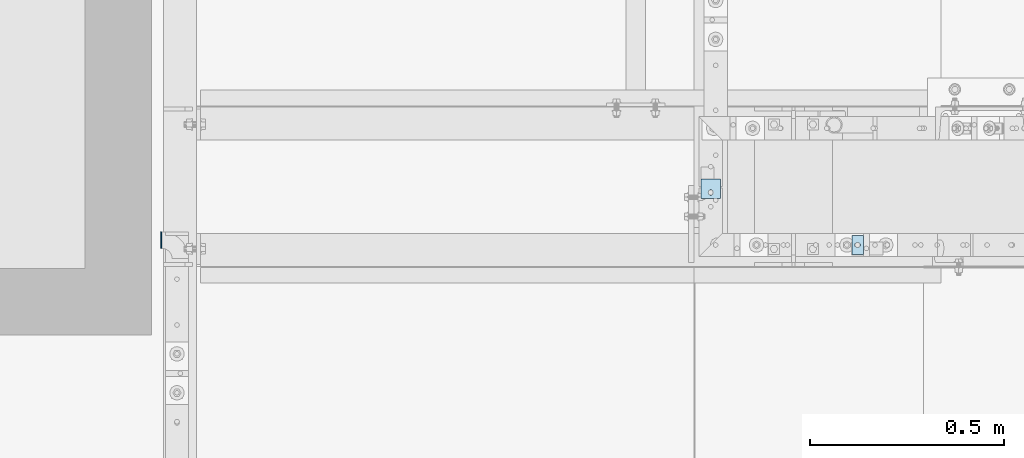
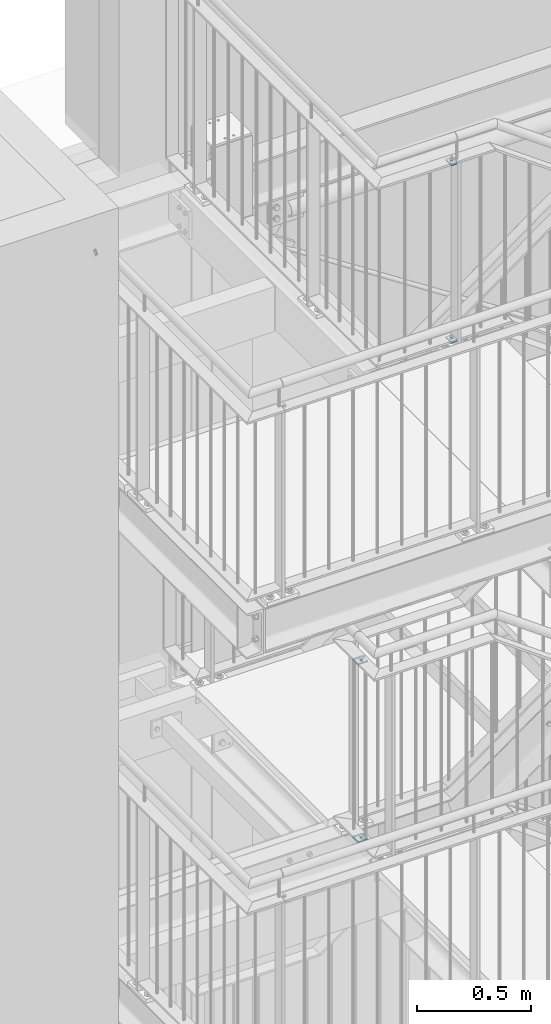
# One storey, part 222 of 821: 5 plates, 8 openings.
"""IFC2X3 building model written with IfcOpenShell, lengths in millimetres."""

from ifc_helpers import new_model, entity, si_unit, converted_unit, point, frame, frame_2d, origin, origin_with_axes, place, context, project, spatial, polyline, circle_curve, line_curve, trimmed, segment, composite_curve, outline, extrude, material, layer, layer_set, element, save


model = new_model("IFC2X3")

# Units and contexts
model_context = context("Model", 3, precision=1e-09, world=origin_with_axes())
ifc_project = project(units=[si_unit("LENGTHUNIT", "METRE", prefix="MILLI"), si_unit("AREAUNIT", "SQUARE_METRE"), si_unit("VOLUMEUNIT", "CUBIC_METRE"), converted_unit("PLANEANGLEUNIT", "DEGREE", entity("IfcPlaneAngleMeasure", 0.01745329), si_unit("PLANEANGLEUNIT", "RADIAN"), dimensions=[0, 0, 0, 0, 0, 0, 0])], contexts=[model_context])

# Site, building, storey
site_placement = place(None, origin_with_axes())
site = spatial("IfcSite", under=ifc_project, at=site_placement, Name="Cnopf'sche Kinderklinik", CompositionType="ELEMENT")
building_placement = place(site_placement, origin_with_axes())
building = spatial("IfcBuilding", under=site, at=building_placement, Name="Struktur 1", CompositionType="ELEMENT")
storey_placement = place(building_placement, origin_with_axes())
storey = spatial("IfcBuildingStorey", under=building, at=storey_placement, Name="Default Storey", CompositionType="ELEMENT", Elevation=0.0)

# Plate, opening
ifc_material = material(Name="S235JR")
ifc_layer_1 = layer(ifc_material, 6.0)
ifc_layer_set_1 = layer_set([ifc_layer_1], Name="S235JR")
plate_1_placement = place(None, frame((5021.713902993, 5791.736971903, 17888.0), z_axis=(0.0, 0.0, -1.0), x_axis=(-1.0, 0.0, 0.0)))
plate_1 = element("IfcPlate", 1, at=plate_1_placement, inside=storey, material=ifc_layer_set_1, Name="-", ObjectType="-", context=model_context, shape_type="SweptSolid", body=[
    extrude(outline(polyline([(-15.0, -25.0), (15.0, -25.0), (15.0, 25.0), (-15.0, 25.0), (-15.0, -25.0)])), origin_with_axes(), (0.0, 0.0, -1.0), 6.0),
])
opening_1_placement = place(plate_1_placement, frame((-2.500000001, -5.001, 0.5), z_axis=(0.0, 0.0, 1.0), x_axis=(1.0, 0.0, 0.0)))
element("IfcOpeningElement", 2, at=opening_1_placement, cuts=plate_1, ObjectType="Opening", context=model_context, shape_type="SweptSolid", body=[
    extrude(outline(composite_curve([segment(trimmed(line_curve((0.0, 0.0), (1.0, 0.0), 5.0), [point((0.0, 0.0))], [point((5.0, 0.0))], True, "CARTESIAN"), True, "CONTINUOUS"), segment(trimmed(circle_curve(frame_2d((5.0, 5.001), x_axis=(1.0, 0.0)), 5.001), [point((5.0, 0.0))], [point((5.0, 10.002))], True, "CARTESIAN"), True, "CONTINUOUS"), segment(trimmed(line_curve((5.0, 10.002), (-1.0, 0.0), 5.0), [point((5.0, 10.002))], [point((0.0, 10.002))], True, "CARTESIAN"), True, "CONTINUOUS"), segment(trimmed(circle_curve(frame_2d((0.0, 5.001), x_axis=(1.0, 0.0)), 5.001), [point((0.0, 10.002))], [point((0.0, 0.0))], True, "CARTESIAN"), True, "CONTINUOUS")], self_intersect=False)), origin(), (0.0, 0.0, -1.0), 7.0),
])

plate_2_placement = place(None, frame((5021.713902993, 5791.736971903, 18836.8), z_axis=(0.0, 0.0, -1.0), x_axis=(-1.0, 0.0, 0.0)))
plate_2 = element("IfcPlate", 3, at=plate_2_placement, inside=storey, material=ifc_layer_set_1, Name="-", ObjectType="-", context=model_context, shape_type="SweptSolid", body=[
    extrude(outline(polyline([(-15.0, -25.0), (15.0, -25.0), (15.0, 25.0), (-15.0, 25.0), (-15.0, -25.0)])), origin_with_axes(), (0.0, 0.0, -1.0), 6.0),
])
opening_2_placement = place(plate_2_placement, frame((-2.500000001, -5.001, 0.5), z_axis=(0.0, 0.0, 1.0), x_axis=(1.0, 0.0, 0.0)))
element("IfcOpeningElement", 4, at=opening_2_placement, cuts=plate_2, ObjectType="Opening", context=model_context, shape_type="SweptSolid", body=[
    extrude(outline(composite_curve([segment(trimmed(line_curve((0.0, 0.0), (1.0, 0.0), 5.0), [point((0.0, 0.0))], [point((5.0, 0.0))], True, "CARTESIAN"), True, "CONTINUOUS"), segment(trimmed(circle_curve(frame_2d((5.0, 5.001), x_axis=(1.0, 0.0)), 5.001), [point((5.0, 0.0))], [point((5.0, 10.002))], True, "CARTESIAN"), True, "CONTINUOUS"), segment(trimmed(line_curve((5.0, 10.002), (-1.0, 0.0), 5.0), [point((5.0, 10.002))], [point((0.0, 10.002))], True, "CARTESIAN"), True, "CONTINUOUS"), segment(trimmed(circle_curve(frame_2d((0.0, 5.001), x_axis=(1.0, 0.0)), 5.001), [point((0.0, 10.002))], [point((0.0, 0.0))], True, "CARTESIAN"), True, "CONTINUOUS")], self_intersect=False)), origin(), (0.0, 0.0, -1.0), 7.0),
])

plate_3_placement = place(None, frame((4644.213402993, 5936.736971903, 16216.8), z_axis=(0.0, 0.0, -1.0), x_axis=(0.0, -1.0, 0.0)))
plate_3 = element("IfcPlate", 5, at=plate_3_placement, inside=storey, material=ifc_layer_set_1, Name="-", ObjectType="-", context=model_context, shape_type="SweptSolid", body=[
    extrude(outline(polyline([(-25.0, -25.0), (25.0, -25.0), (25.0, 25.0), (-25.0, 25.0), (-25.0, -25.0)])), origin_with_axes(), (0.0, 0.0, -1.0), 6.0),
])
opening_3_placement = place(plate_3_placement, frame((7.499999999, -5.001, 0.5), z_axis=(0.0, 0.0, 1.0), x_axis=(1.0, 0.0, 0.0)))
element("IfcOpeningElement", 6, at=opening_3_placement, cuts=plate_3, ObjectType="Opening", context=model_context, shape_type="SweptSolid", body=[
    extrude(outline(composite_curve([segment(trimmed(line_curve((0.0, 0.0), (1.0, 0.0), 5.0), [point((0.0, 0.0))], [point((5.0, 0.0))], True, "CARTESIAN"), True, "CONTINUOUS"), segment(trimmed(circle_curve(frame_2d((5.0, 5.001), x_axis=(1.0, 0.0)), 5.001), [point((5.0, 0.0))], [point((5.0, 10.002))], True, "CARTESIAN"), True, "CONTINUOUS"), segment(trimmed(line_curve((5.0, 10.002), (-1.0, 0.0), 5.0), [point((5.0, 10.002))], [point((0.0, 10.002))], True, "CARTESIAN"), True, "CONTINUOUS"), segment(trimmed(circle_curve(frame_2d((0.0, 5.001), x_axis=(1.0, 0.0)), 5.001), [point((0.0, 10.002))], [point((0.0, 0.0))], True, "CARTESIAN"), True, "CONTINUOUS")], self_intersect=False)), origin(), (0.0, 0.0, -1.0), 7.0),
])

plate_4_placement = place(None, frame((4644.213402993, 5936.736971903, 15268.0), z_axis=(0.0, 0.0, -1.0), x_axis=(0.0, -1.0, 0.0)))
plate_4 = element("IfcPlate", 7, at=plate_4_placement, inside=storey, material=ifc_layer_set_1, Name="-", ObjectType="-", context=model_context, shape_type="SweptSolid", body=[
    extrude(outline(polyline([(-25.0, -25.0), (25.0, -25.0), (25.0, 25.0), (-25.0, 25.0), (-25.0, -25.0)])), origin_with_axes(), (0.0, 0.0, -1.0), 6.0),
])
opening_4_placement = place(plate_4_placement, frame((7.499999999, -5.001, 0.5), z_axis=(0.0, 0.0, 1.0), x_axis=(1.0, 0.0, 0.0)))
element("IfcOpeningElement", 8, at=opening_4_placement, cuts=plate_4, ObjectType="Opening", context=model_context, shape_type="SweptSolid", body=[
    extrude(outline(composite_curve([segment(trimmed(line_curve((0.0, 0.0), (1.0, 0.0), 5.0), [point((0.0, 0.0))], [point((5.0, 0.0))], True, "CARTESIAN"), True, "CONTINUOUS"), segment(trimmed(circle_curve(frame_2d((5.0, 5.001), x_axis=(1.0, 0.0)), 5.001), [point((5.0, 0.0))], [point((5.0, 10.002))], True, "CARTESIAN"), True, "CONTINUOUS"), segment(trimmed(line_curve((5.0, 10.002), (-1.0, 0.0), 5.0), [point((5.0, 10.002))], [point((0.0, 10.002))], True, "CARTESIAN"), True, "CONTINUOUS"), segment(trimmed(circle_curve(frame_2d((0.0, 5.001), x_axis=(1.0, 0.0)), 5.001), [point((0.0, 10.002))], [point((0.0, 0.0))], True, "CARTESIAN"), True, "CONTINUOUS")], self_intersect=False)), origin(), (0.0, 0.0, -1.0), 7.0),
])

# Plate, openings
ifc_layer_2 = layer(ifc_material, 3.0)
ifc_layer_set_2 = layer_set([ifc_layer_2], Name="S235JR")
plate_5_placement = place(None, frame((3232.513402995, 5783.18329849, 18974.000000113), z_axis=(-1.0, 0.0, 0.0), x_axis=(0.0, 0.0, 1.0)))
plate_5 = element("IfcPlate", 9, at=plate_5_placement, inside=storey, material=ifc_layer_set_2, Name="-", ObjectType="-", context=model_context, shape_type="SweptSolid", body=[
    extrude(outline(polyline([(21.2, 0.0), (21.2, 42.4), (-21.2, 42.4), (-21.2, 0.0), (21.2, 0.0)])), origin_with_axes(), (0.0, 0.0, 1.0), 3.0),
])
opening_5_placement = place(plate_5_placement, frame((0.0, 0.0, -0.01), z_axis=(0.0, 0.0, 1.0), x_axis=(1.0, 0.0, 0.0)))
element("IfcOpeningElement", 10, at=opening_5_placement, cuts=plate_5, ObjectType="Opening", context=model_context, shape_type="SweptSolid", body=[
    extrude(outline(composite_curve([segment(trimmed(line_curve((21.2, 0.0), (0.0, 1.0), 21.2), [point((21.2, 0.0))], [point((21.2, 21.2))], True, "CARTESIAN"), True, "CONTINUOUS"), segment(trimmed(circle_curve(frame_2d((0.0, 21.2), x_axis=(-1.0, 0.0)), 21.2), [point((21.2, 21.2))], [point((0.0, 0.0))], False, "CARTESIAN"), True, "CONTINUOUS"), segment(trimmed(line_curve((0.0, 0.0), (1.0, 0.0), 21.2), [point((0.0, 0.0))], [point((21.2, 0.0))], True, "CARTESIAN"), True, "CONTINUOUS")], self_intersect=False)), origin(), (0.0, 0.0, 1.0), 3.02),
])
opening_6_placement = place(plate_5_placement, frame((0.0, 0.0, -0.01), z_axis=(0.0, 0.0, 1.0), x_axis=(1.0, 0.0, 0.0)))
element("IfcOpeningElement", 11, at=opening_6_placement, cuts=plate_5, ObjectType="Opening", context=model_context, shape_type="SweptSolid", body=[
    extrude(outline(composite_curve([segment(trimmed(line_curve((21.2, 42.4), (-1.0, 0.0), 21.2), [point((21.2, 42.4))], [point((0.0, 42.4))], True, "CARTESIAN"), True, "CONTINUOUS"), segment(trimmed(circle_curve(frame_2d((0.0, 21.2), x_axis=(-1.0, 0.0)), 21.2), [point((0.0, 42.4))], [point((21.2, 21.2))], False, "CARTESIAN"), True, "CONTINUOUS"), segment(trimmed(line_curve((21.2, 21.2), (0.0, 1.0), 21.2), [point((21.2, 21.2))], [point((21.2, 42.4))], True, "CARTESIAN"), True, "CONTINUOUS")], self_intersect=False)), origin(), (0.0, 0.0, 1.0), 3.02),
])
opening_7_placement = place(plate_5_placement, frame((0.0, 0.0, -0.01), z_axis=(0.0, 0.0, 1.0), x_axis=(1.0, 0.0, 0.0)))
element("IfcOpeningElement", 12, at=opening_7_placement, cuts=plate_5, ObjectType="Opening", context=model_context, shape_type="SweptSolid", body=[
    extrude(outline(composite_curve([segment(trimmed(line_curve((-21.2, 42.4), (0.0, -1.0), 21.2), [point((-21.2, 42.4))], [point((-21.2, 21.2))], True, "CARTESIAN"), True, "CONTINUOUS"), segment(trimmed(circle_curve(frame_2d((0.0, 21.2), x_axis=(-1.0, 0.0)), 21.2), [point((-21.2, 21.2))], [point((0.0, 42.4))], False, "CARTESIAN"), True, "CONTINUOUS"), segment(trimmed(line_curve((0.0, 42.4), (-1.0, 0.0), 21.2), [point((0.0, 42.4))], [point((-21.2, 42.4))], True, "CARTESIAN"), True, "CONTINUOUS")], self_intersect=False)), origin(), (0.0, 0.0, 1.0), 3.02),
])
opening_8_placement = place(plate_5_placement, frame((0.0, 0.0, -0.01), z_axis=(0.0, 0.0, 1.0), x_axis=(1.0, 0.0, 0.0)))
element("IfcOpeningElement", 13, at=opening_8_placement, cuts=plate_5, ObjectType="Opening", context=model_context, shape_type="SweptSolid", body=[
    extrude(outline(composite_curve([segment(trimmed(line_curve((-21.2, 0.0), (1.0, 0.0), 21.2), [point((-21.2, 0.0))], [point((0.0, 0.0))], True, "CARTESIAN"), True, "CONTINUOUS"), segment(trimmed(circle_curve(frame_2d((0.0, 21.2), x_axis=(-1.0, 0.0)), 21.2), [point((0.0, 0.0))], [point((-21.2, 21.2))], False, "CARTESIAN"), True, "CONTINUOUS"), segment(trimmed(line_curve((-21.2, 21.2), (0.0, -1.0), 21.2), [point((-21.2, 21.2))], [point((-21.2, 0.0))], True, "CARTESIAN"), True, "CONTINUOUS")], self_intersect=False)), origin(), (0.0, 0.0, 1.0), 3.02),
])

save(model, "model.ifc")
